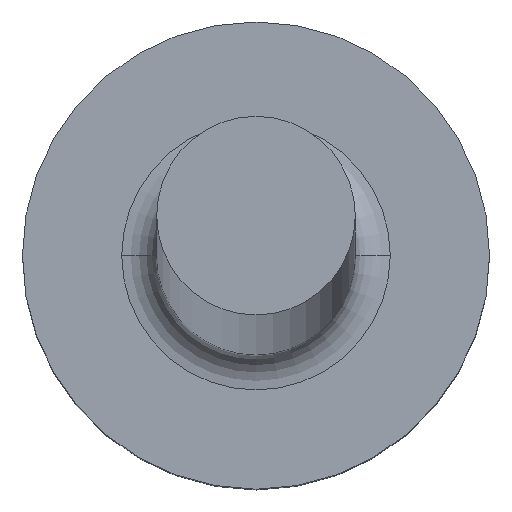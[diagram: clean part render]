
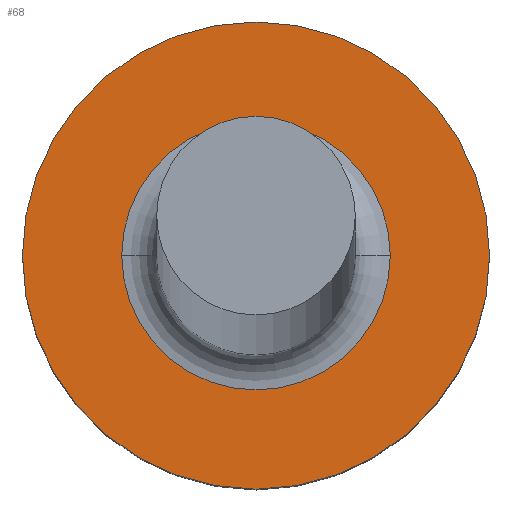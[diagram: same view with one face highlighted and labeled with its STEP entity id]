
A CAD part, top view. The second image highlights one B-rep face of the part: STEP entity #68.
In plain terms, the highlighted planar face has unit normal (0, 0, 1).
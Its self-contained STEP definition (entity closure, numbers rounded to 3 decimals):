
#5 = ORIENTED_EDGE ( 'NONE', *, *, #199, .T. ) ;
#14 = DIRECTION ( 'NONE',  ( -1., 0., 0. ) ) ;
#19 = DIRECTION ( 'NONE',  ( 0., 0., -1. ) ) ;
#35 = CARTESIAN_POINT ( 'NONE',  ( 1.15, 0., 4. ) ) ;
#41 = VERTEX_POINT ( 'NONE', #54 ) ;
#43 = AXIS2_PLACEMENT_3D ( 'NONE', #250, #19, #164 ) ;
#54 = CARTESIAN_POINT ( 'NONE',  ( -2., 0., 4. ) ) ;
#60 = DIRECTION ( 'NONE',  ( 0., 0., -1. ) ) ;
#68 = ADVANCED_FACE ( 'NONE', ( #244, #149 ), #139, .F. ) ;
#70 = EDGE_CURVE ( 'NONE', #41, #197, #176, .T. ) ;
#82 = AXIS2_PLACEMENT_3D ( 'NONE', #116, #161, #14 ) ;
#91 = EDGE_LOOP ( 'NONE', ( #96, #229 ) ) ;
#96 = ORIENTED_EDGE ( 'NONE', *, *, #70, .F. ) ;
#105 = ORIENTED_EDGE ( 'NONE', *, *, #258, .T. ) ;
#116 = CARTESIAN_POINT ( 'NONE',  ( 2., 0., 4. ) ) ;
#122 = DIRECTION ( 'NONE',  ( -1., 0., 0. ) ) ;
#126 = AXIS2_PLACEMENT_3D ( 'NONE', #159, #224, #242 ) ;
#127 = DIRECTION ( 'NONE',  ( -1., 0., 0. ) ) ;
#133 = EDGE_CURVE ( 'NONE', #197, #41, #182, .T. ) ;
#139 = PLANE ( 'NONE',  #82 ) ;
#142 = CARTESIAN_POINT ( 'NONE',  ( 2., 0., 4. ) ) ;
#149 = FACE_OUTER_BOUND ( 'NONE', #91, .T. ) ;
#155 = EDGE_LOOP ( 'NONE', ( #105, #5 ) ) ;
#159 = CARTESIAN_POINT ( 'NONE',  ( 0., 0., 4. ) ) ;
#161 = DIRECTION ( 'NONE',  ( 0., 0., -1. ) ) ;
#164 = DIRECTION ( 'NONE',  ( -1., 0., 0. ) ) ;
#172 = CIRCLE ( 'NONE', #43, 1.15 ) ;
#176 = CIRCLE ( 'NONE', #126, 2. ) ;
#182 = CIRCLE ( 'NONE', #196, 2. ) ;
#184 = AXIS2_PLACEMENT_3D ( 'NONE', #233, #60, #127 ) ;
#185 = DIRECTION ( 'NONE',  ( 0., 0., -1. ) ) ;
#187 = CARTESIAN_POINT ( 'NONE',  ( 0., 0., 4. ) ) ;
#191 = CIRCLE ( 'NONE', #184, 1.15 ) ;
#196 = AXIS2_PLACEMENT_3D ( 'NONE', #187, #185, #122 ) ;
#197 = VERTEX_POINT ( 'NONE', #142 ) ;
#199 = EDGE_CURVE ( 'NONE', #209, #214, #172, .T. ) ;
#209 = VERTEX_POINT ( 'NONE', #35 ) ;
#214 = VERTEX_POINT ( 'NONE', #272 ) ;
#224 = DIRECTION ( 'NONE',  ( 0., 0., -1. ) ) ;
#229 = ORIENTED_EDGE ( 'NONE', *, *, #133, .F. ) ;
#233 = CARTESIAN_POINT ( 'NONE',  ( 0., 0., 4. ) ) ;
#242 = DIRECTION ( 'NONE',  ( -1., 0., 0. ) ) ;
#244 = FACE_BOUND ( 'NONE', #155, .T. ) ;
#250 = CARTESIAN_POINT ( 'NONE',  ( 0., 0., 4. ) ) ;
#258 = EDGE_CURVE ( 'NONE', #214, #209, #191, .T. ) ;
#272 = CARTESIAN_POINT ( 'NONE',  ( -1.15, 0., 4. ) ) ;
